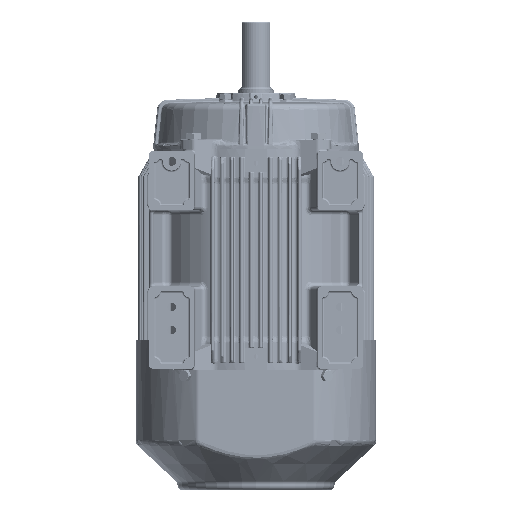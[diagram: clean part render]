
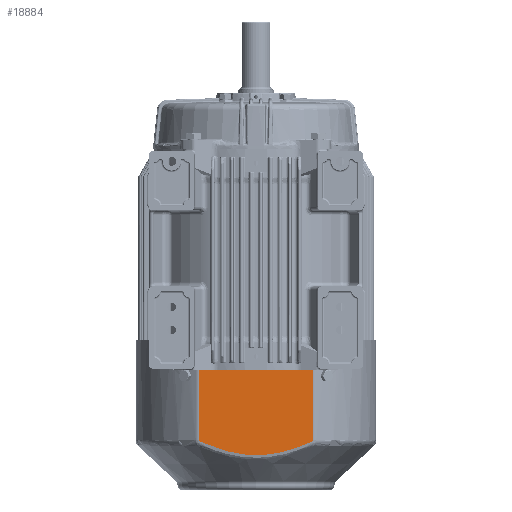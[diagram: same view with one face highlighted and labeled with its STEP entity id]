
A CAD part, front view. The second image highlights one B-rep face of the part: STEP entity #18884.
In plain terms, the highlighted planar face has unit normal (0, -1, 0).
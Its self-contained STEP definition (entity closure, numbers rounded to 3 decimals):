
#3281 = B_SPLINE_CURVE_WITH_KNOTS ( 'NONE', 3,
 ( #256590, #324984, #423347, #196490, #89608, #98052, #228650, #162272, #382833, #421260, #318653, #158056, #359156, #220207, #25279, #95941, #327071, #226526, #350725, #292831, #155943 ),
 .UNSPECIFIED., .F., .F.,
 ( 4, 2, 2, 2, 2, 2, 2, 1, 2, 2, 4 ),
 ( 0., 0.024, 0.048, 0.072, 0.096, 0.102, 0.108, 0.12, 0.144, 0.168, 0.192 ),
 .UNSPECIFIED. ) ;
#4255 = ORIENTED_EDGE ( 'NONE', *, *, #42907, .T. ) ;
#6057 = CARTESIAN_POINT ( 'NONE',  ( 3.738, -6.85, -15. ) ) ;
#8773 = CARTESIAN_POINT ( 'NONE',  ( 3.738, -6.85, -11.72 ) ) ;
#12696 = DIRECTION ( 'NONE',  ( 0., 1., 0. ) ) ;
#18884 = ADVANCED_FACE ( 'NONE', ( #207630 ), #201274, .F. ) ;
#25279 = CARTESIAN_POINT ( 'NONE',  ( 1.103, -6.85, -12.658 ) ) ;
#37482 = LINE ( 'NONE', #140247, #103308 ) ;
#38576 = CARTESIAN_POINT ( 'NONE',  ( -3.683, -6.85, -11.813 ) ) ;
#39990 = EDGE_LOOP ( 'NONE', ( #216872, #80399, #70608, #350792, #4255, #290997 ) ) ;
#42752 = CARTESIAN_POINT ( 'NONE',  ( -12.795, -6.85, -15. ) ) ;
#42907 = EDGE_CURVE ( 'NONE', #389455, #274231, #107238, .T. ) ;
#43044 = CARTESIAN_POINT ( 'NONE',  ( 3.707, -6.85, -11.789 ) ) ;
#51534 = CARTESIAN_POINT ( 'NONE',  ( 3.683, -6.85, -11.812 ) ) ;
#70608 = ORIENTED_EDGE ( 'NONE', *, *, #85206, .T. ) ;
#80399 = ORIENTED_EDGE ( 'NONE', *, *, #261646, .T. ) ;
#81550 = CARTESIAN_POINT ( 'NONE',  ( 3.67, -6.85, -11.823 ) ) ;
#85206 = EDGE_CURVE ( 'NONE', #230688, #242914, #101973, .T. ) ;
#89608 = CARTESIAN_POINT ( 'NONE',  ( -2.143, -6.85, -12.416 ) ) ;
#95941 = CARTESIAN_POINT ( 'NONE',  ( 1.558, -6.85, -12.566 ) ) ;
#98052 = CARTESIAN_POINT ( 'NONE',  ( -1.54, -6.85, -12.571 ) ) ;
#98705 = CARTESIAN_POINT ( 'NONE',  ( -3.642, -6.85, -11.841 ) ) ;
#100065 = EDGE_CURVE ( 'NONE', #274231, #139878, #3281, .T. ) ;
#101973 = LINE ( 'NONE', #131965, #235931 ) ;
#102897 = CARTESIAN_POINT ( 'NONE',  ( -3.73, -6.85, -11.753 ) ) ;
#103308 = VECTOR ( 'NONE', #268743, 39.37 ) ;
#107123 = CARTESIAN_POINT ( 'NONE',  ( -3.722, -6.85, -11.768 ) ) ;
#107238 = B_SPLINE_CURVE_WITH_KNOTS ( 'NONE', 3,
 ( #297705, #269861, #368222, #237719, #102897, #107123, #173499, #231376, #304039, #38576, #137116, #98705, #171368, #363983 ),
 .UNSPECIFIED., .F., .F.,
 ( 4, 2, 2, 2, 2, 2, 4 ),
 ( 0., 0.001, 0.001, 0.002, 0.003, 0.004, 0.005 ),
 .UNSPECIFIED. ) ;
#107787 = EDGE_CURVE ( 'NONE', #242914, #389455, #37482, .T. ) ;
#108845 = LINE ( 'NONE', #6057, #140010 ) ;
#110382 = CARTESIAN_POINT ( 'NONE',  ( 3.611, -6.85, -11.856 ) ) ;
#115772 = CARTESIAN_POINT ( 'NONE',  ( 3.733, -6.85, -11.745 ) ) ;
#128853 = CARTESIAN_POINT ( 'NONE',  ( -3.611, -6.85, -11.856 ) ) ;
#130332 = AXIS2_PLACEMENT_3D ( 'NONE', #42752, #12696, #173424 ) ;
#131965 = CARTESIAN_POINT ( 'NONE',  ( -12.795, -6.85, -7.205 ) ) ;
#137116 = CARTESIAN_POINT ( 'NONE',  ( -3.67, -6.85, -11.823 ) ) ;
#139878 = VERTEX_POINT ( 'NONE', #110382 ) ;
#140010 = VECTOR ( 'NONE', #170980, 39.37 ) ;
#140207 = CARTESIAN_POINT ( 'NONE',  ( -3.738, -6.85, -11.712 ) ) ;
#140247 = CARTESIAN_POINT ( 'NONE',  ( -3.738, -6.85, -15. ) ) ;
#155943 = CARTESIAN_POINT ( 'NONE',  ( 3.611, -6.85, -11.856 ) ) ;
#158056 = CARTESIAN_POINT ( 'NONE',  ( 0.321, -6.85, -12.727 ) ) ;
#162272 = CARTESIAN_POINT ( 'NONE',  ( -0.62, -6.85, -12.712 ) ) ;
#166607 = EDGE_CURVE ( 'NONE', #139878, #282246, #312902, .T. ) ;
#170980 = DIRECTION ( 'NONE',  ( 0., 0., 1. ) ) ;
#171368 = CARTESIAN_POINT ( 'NONE',  ( -3.627, -6.85, -11.849 ) ) ;
#173424 = DIRECTION ( 'NONE',  ( 0., 0., 1. ) ) ;
#173499 = CARTESIAN_POINT ( 'NONE',  ( -3.717, -6.85, -11.775 ) ) ;
#179470 = CARTESIAN_POINT ( 'NONE',  ( -3.738, -6.85, -7.205 ) ) ;
#180008 = CARTESIAN_POINT ( 'NONE',  ( 3.642, -6.85, -11.841 ) ) ;
#184849 = CARTESIAN_POINT ( 'NONE',  ( 3.738, -6.85, -7.205 ) ) ;
#196490 = CARTESIAN_POINT ( 'NONE',  ( -2.441, -6.85, -12.322 ) ) ;
#201274 = PLANE ( 'NONE',  #130332 ) ;
#207630 = FACE_OUTER_BOUND ( 'NONE', #39990, .T. ) ;
#212143 = CARTESIAN_POINT ( 'NONE',  ( 3.718, -6.85, -11.775 ) ) ;
#216872 = ORIENTED_EDGE ( 'NONE', *, *, #166607, .T. ) ;
#220207 = CARTESIAN_POINT ( 'NONE',  ( 0.635, -6.85, -12.706 ) ) ;
#226526 = CARTESIAN_POINT ( 'NONE',  ( 2.453, -6.85, -12.319 ) ) ;
#228650 = CARTESIAN_POINT ( 'NONE',  ( -1.236, -6.85, -12.631 ) ) ;
#230688 = VERTEX_POINT ( 'NONE', #184849 ) ;
#231376 = CARTESIAN_POINT ( 'NONE',  ( -3.707, -6.85, -11.789 ) ) ;
#235931 = VECTOR ( 'NONE', #390994, 39.37 ) ;
#237719 = CARTESIAN_POINT ( 'NONE',  ( -3.733, -6.85, -11.745 ) ) ;
#242914 = VERTEX_POINT ( 'NONE', #179470 ) ;
#256590 = CARTESIAN_POINT ( 'NONE',  ( -3.611, -6.85, -11.856 ) ) ;
#261646 = EDGE_CURVE ( 'NONE', #282246, #230688, #108845, .T. ) ;
#265848 = CARTESIAN_POINT ( 'NONE',  ( 3.738, -6.85, -11.712 ) ) ;
#268743 = DIRECTION ( 'NONE',  ( 0., 0., -1. ) ) ;
#269861 = CARTESIAN_POINT ( 'NONE',  ( -3.738, -6.85, -11.72 ) ) ;
#274231 = VERTEX_POINT ( 'NONE', #128853 ) ;
#274275 = CARTESIAN_POINT ( 'NONE',  ( 3.627, -6.85, -11.849 ) ) ;
#282246 = VERTEX_POINT ( 'NONE', #265848 ) ;
#290997 = ORIENTED_EDGE ( 'NONE', *, *, #100065, .T. ) ;
#292831 = CARTESIAN_POINT ( 'NONE',  ( 3.326, -6.85, -11.986 ) ) ;
#297705 = CARTESIAN_POINT ( 'NONE',  ( -3.738, -6.85, -11.712 ) ) ;
#302116 = CARTESIAN_POINT ( 'NONE',  ( 3.737, -6.85, -11.729 ) ) ;
#304039 = CARTESIAN_POINT ( 'NONE',  ( -3.701, -6.85, -11.795 ) ) ;
#312902 = B_SPLINE_CURVE_WITH_KNOTS ( 'NONE', 3,
 ( #344778, #274275, #180008, #81550, #51534, #43044, #212143, #408999, #115772, #302116, #8773, #400582 ),
 .UNSPECIFIED., .F., .F.,
 ( 4, 2, 2, 2, 2, 4 ),
 ( 0., 0.001, 0.003, 0.004, 0.004, 0.005 ),
 .UNSPECIFIED. ) ;
#318653 = CARTESIAN_POINT ( 'NONE',  ( 0.163, -6.85, -12.732 ) ) ;
#324984 = CARTESIAN_POINT ( 'NONE',  ( -3.325, -6.85, -11.986 ) ) ;
#327071 = CARTESIAN_POINT ( 'NONE',  ( 2.158, -6.85, -12.412 ) ) ;
#344778 = CARTESIAN_POINT ( 'NONE',  ( 3.611, -6.85, -11.856 ) ) ;
#350725 = CARTESIAN_POINT ( 'NONE',  ( 3.037, -6.85, -12.105 ) ) ;
#350792 = ORIENTED_EDGE ( 'NONE', *, *, #107787, .T. ) ;
#359156 = CARTESIAN_POINT ( 'NONE',  ( 0.4, -6.85, -12.722 ) ) ;
#363983 = CARTESIAN_POINT ( 'NONE',  ( -3.611, -6.85, -11.856 ) ) ;
#368222 = CARTESIAN_POINT ( 'NONE',  ( -3.737, -6.85, -11.729 ) ) ;
#382833 = CARTESIAN_POINT ( 'NONE',  ( -0.31, -6.85, -12.734 ) ) ;
#389455 = VERTEX_POINT ( 'NONE', #140207 ) ;
#390994 = DIRECTION ( 'NONE',  ( -1., 0., 0. ) ) ;
#400582 = CARTESIAN_POINT ( 'NONE',  ( 3.738, -6.85, -11.712 ) ) ;
#408999 = CARTESIAN_POINT ( 'NONE',  ( 3.73, -6.85, -11.753 ) ) ;
#421260 = CARTESIAN_POINT ( 'NONE',  ( 0.084, -6.85, -12.733 ) ) ;
#423347 = CARTESIAN_POINT ( 'NONE',  ( -3.034, -6.85, -12.107 ) ) ;
